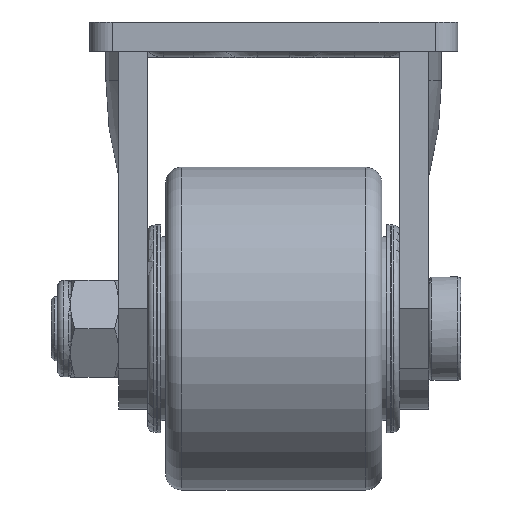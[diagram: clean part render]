
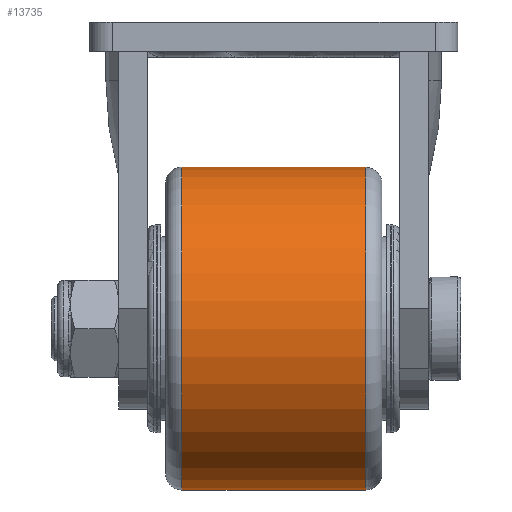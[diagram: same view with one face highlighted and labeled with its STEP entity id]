
A CAD part, left-side view. The second image highlights one B-rep face of the part: STEP entity #13735.
In plain terms, the highlighted cylindrical face has radius 50 mm (diameter 100 mm), a full revolution.
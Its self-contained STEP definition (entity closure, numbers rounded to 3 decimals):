
#3694=CYLINDRICAL_SURFACE('',#14560,50.);
#3757=FACE_BOUND('',#4662,.T.);
#3857=FACE_OUTER_BOUND('',#4661,.T.);
#4661=EDGE_LOOP('',(#9400));
#4662=EDGE_LOOP('',(#9401));
#5562=CIRCLE('',#14558,50.);
#5564=CIRCLE('',#14561,50.);
#5817=VERTEX_POINT('',#17608);
#5819=VERTEX_POINT('',#17613);
#7248=EDGE_CURVE('',#5817,#5817,#5562,.T.);
#7250=EDGE_CURVE('',#5819,#5819,#5564,.T.);
#9400=ORIENTED_EDGE('',*,*,#7248,.T.);
#9401=ORIENTED_EDGE('',*,*,#7250,.F.);
#13735=ADVANCED_FACE('',(#3857,#3757),#3694,.T.);
#14558=AXIS2_PLACEMENT_3D('',#17609,#15217,#15218);
#14560=AXIS2_PLACEMENT_3D('',#17612,#15221,#15222);
#14561=AXIS2_PLACEMENT_3D('',#17614,#15223,#15224);
#15217=DIRECTION('center_axis',(0.,-1.,0.));
#15218=DIRECTION('ref_axis',(1.,0.,0.));
#15221=DIRECTION('center_axis',(0.,-1.,0.));
#15222=DIRECTION('ref_axis',(0.,0.,1.));
#15223=DIRECTION('center_axis',(0.,-1.,0.));
#15224=DIRECTION('ref_axis',(1.,0.,0.));
#17608=CARTESIAN_POINT('',(-1.,28.5,-40.5));
#17609=CARTESIAN_POINT('Origin',(-1.,28.5,-90.5));
#17612=CARTESIAN_POINT('Origin',(-1.,0.,
-90.5));
#17613=CARTESIAN_POINT('',(-1.,-28.5,-40.5));
#17614=CARTESIAN_POINT('Origin',(-1.,-28.5,-90.5));
